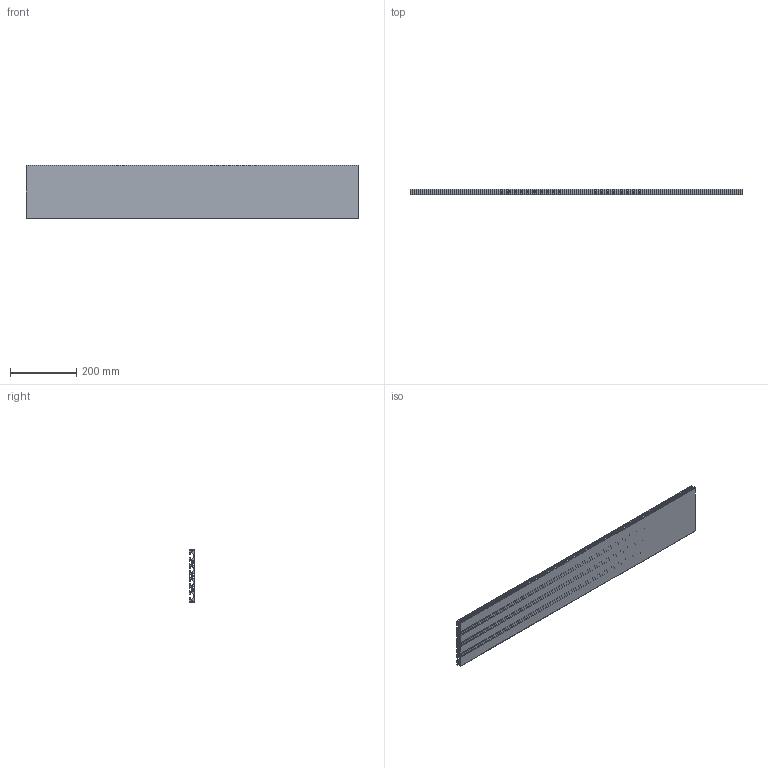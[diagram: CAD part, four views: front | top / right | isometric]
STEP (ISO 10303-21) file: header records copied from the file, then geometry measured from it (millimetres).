
FILE_DESCRIPTION (( 'STEP AP203' ), '1' );
FILE_NAME ('10386_PRO_160x16.STEP', '2016-03-02T11:47:02', ( '' ), ( '' ), 'SwSTEP 2.0', 'SolidWorks 2015', '' );
FILE_SCHEMA (( 'CONFIG_CONTROL_DESIGN' ));
Length unit declared in the file: millimetre
Products named in the file (1): 10386_PRO_160x16
Bounding box: 1000 x 16 x 160 mm (x, y, z)
Volume: 1388306 mm3; surface area: 822230 mm2
Topology: 1 solids, 1 shells, 305 faces, 909 edges, 606 vertices
Faces by surface type: cylinder 165, plane 140
Entity records: 10442 total; most frequent: DIRECTION 1851, CARTESIAN_POINT 1821, ORIENTED_EDGE 1818, EDGE_CURVE 909, AXIS2_PLACEMENT_3D 636, VERTEX_POINT 606, VECTOR 579, LINE 579
